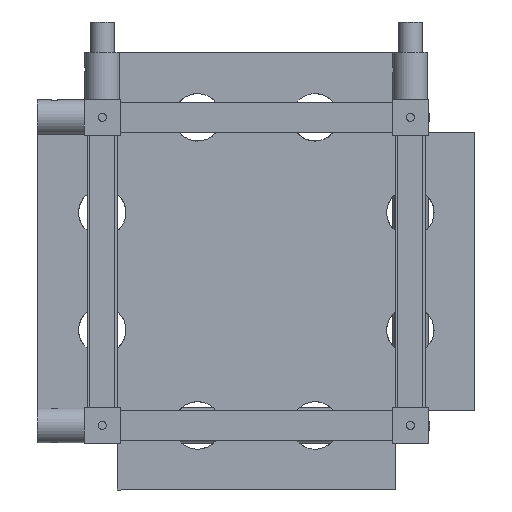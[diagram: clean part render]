
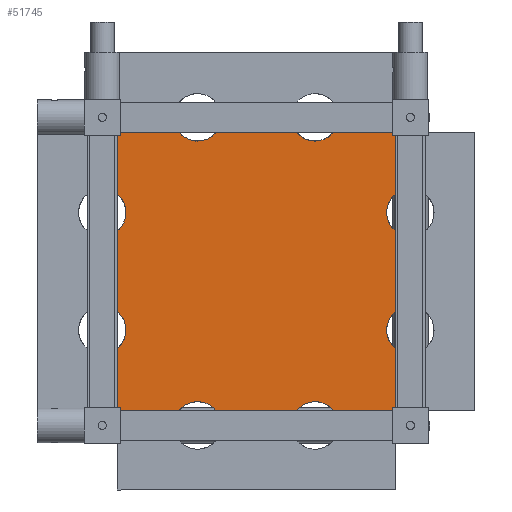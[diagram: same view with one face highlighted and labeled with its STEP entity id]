
A CAD part, front view. The second image highlights one B-rep face of the part: STEP entity #51745.
In plain terms, the highlighted planar face has unit normal (0, -1, 0).
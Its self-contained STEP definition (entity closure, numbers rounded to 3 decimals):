
#418=LINE('',#72221,#6344);
#419=LINE('',#72225,#6345);
#420=LINE('',#72227,#6346);
#421=LINE('',#72231,#6347);
#422=LINE('',#72235,#6348);
#423=LINE('',#72237,#6349);
#424=LINE('',#72241,#6350);
#425=LINE('',#72245,#6351);
#426=LINE('',#72247,#6352);
#427=LINE('',#72251,#6353);
#428=LINE('',#72255,#6354);
#429=LINE('',#72257,#6355);
#6344=VECTOR('',#58435,10.);
#6345=VECTOR('',#58438,10.);
#6346=VECTOR('',#58439,10.);
#6347=VECTOR('',#58442,10.);
#6348=VECTOR('',#58445,10.);
#6349=VECTOR('',#58446,10.);
#6350=VECTOR('',#58449,10.);
#6351=VECTOR('',#58452,10.);
#6352=VECTOR('',#58453,10.);
#6353=VECTOR('',#58456,10.);
#6354=VECTOR('',#58459,10.);
#6355=VECTOR('',#58460,10.);
#12194=CIRCLE('',#54553,40.);
#12195=CIRCLE('',#54554,40.);
#12196=CIRCLE('',#54555,40.);
#12197=CIRCLE('',#54556,40.);
#12198=CIRCLE('',#54557,40.);
#12199=CIRCLE('',#54558,40.);
#12200=CIRCLE('',#54559,40.);
#12201=CIRCLE('',#54560,40.);
#13100=PLANE('',#54552);
#15564=FACE_OUTER_BOUND('',#18318,.T.);
#18318=EDGE_LOOP('',(#34185,#34186,#34187,#34188,#34189,#34190,#34191,#34192,
#34193,#34194,#34195,#34196,#34197,#34198,#34199,#34200,#34201,#34202,#34203,
#34204));
#21947=VERTEX_POINT('',#72219);
#21948=VERTEX_POINT('',#72220);
#21949=VERTEX_POINT('',#72222);
#21950=VERTEX_POINT('',#72224);
#21951=VERTEX_POINT('',#72226);
#21952=VERTEX_POINT('',#72228);
#21953=VERTEX_POINT('',#72230);
#21954=VERTEX_POINT('',#72232);
#21955=VERTEX_POINT('',#72234);
#21956=VERTEX_POINT('',#72236);
#21957=VERTEX_POINT('',#72238);
#21958=VERTEX_POINT('',#72240);
#21959=VERTEX_POINT('',#72242);
#21960=VERTEX_POINT('',#72244);
#21961=VERTEX_POINT('',#72246);
#21962=VERTEX_POINT('',#72248);
#21963=VERTEX_POINT('',#72250);
#21964=VERTEX_POINT('',#72252);
#21965=VERTEX_POINT('',#72254);
#21966=VERTEX_POINT('',#72256);
#26776=EDGE_CURVE('',#21947,#21948,#418,.T.);
#26777=EDGE_CURVE('',#21948,#21949,#12194,.T.);
#26778=EDGE_CURVE('',#21949,#21950,#419,.T.);
#26779=EDGE_CURVE('',#21950,#21951,#420,.T.);
#26780=EDGE_CURVE('',#21951,#21952,#12195,.T.);
#26781=EDGE_CURVE('',#21952,#21953,#421,.T.);
#26782=EDGE_CURVE('',#21953,#21954,#12196,.T.);
#26783=EDGE_CURVE('',#21954,#21955,#422,.T.);
#26784=EDGE_CURVE('',#21956,#21955,#423,.T.);
#26785=EDGE_CURVE('',#21956,#21957,#12197,.T.);
#26786=EDGE_CURVE('',#21958,#21957,#424,.T.);
#26787=EDGE_CURVE('',#21958,#21959,#12198,.T.);
#26788=EDGE_CURVE('',#21960,#21959,#425,.T.);
#26789=EDGE_CURVE('',#21960,#21961,#426,.T.);
#26790=EDGE_CURVE('',#21961,#21962,#12199,.T.);
#26791=EDGE_CURVE('',#21962,#21963,#427,.T.);
#26792=EDGE_CURVE('',#21963,#21964,#12200,.T.);
#26793=EDGE_CURVE('',#21964,#21965,#428,.T.);
#26794=EDGE_CURVE('',#21965,#21966,#429,.T.);
#26795=EDGE_CURVE('',#21966,#21947,#12201,.T.);
#34185=ORIENTED_EDGE('',*,*,#26776,.T.);
#34186=ORIENTED_EDGE('',*,*,#26777,.T.);
#34187=ORIENTED_EDGE('',*,*,#26778,.T.);
#34188=ORIENTED_EDGE('',*,*,#26779,.T.);
#34189=ORIENTED_EDGE('',*,*,#26780,.T.);
#34190=ORIENTED_EDGE('',*,*,#26781,.T.);
#34191=ORIENTED_EDGE('',*,*,#26782,.T.);
#34192=ORIENTED_EDGE('',*,*,#26783,.T.);
#34193=ORIENTED_EDGE('',*,*,#26784,.F.);
#34194=ORIENTED_EDGE('',*,*,#26785,.T.);
#34195=ORIENTED_EDGE('',*,*,#26786,.F.);
#34196=ORIENTED_EDGE('',*,*,#26787,.T.);
#34197=ORIENTED_EDGE('',*,*,#26788,.F.);
#34198=ORIENTED_EDGE('',*,*,#26789,.T.);
#34199=ORIENTED_EDGE('',*,*,#26790,.T.);
#34200=ORIENTED_EDGE('',*,*,#26791,.T.);
#34201=ORIENTED_EDGE('',*,*,#26792,.T.);
#34202=ORIENTED_EDGE('',*,*,#26793,.T.);
#34203=ORIENTED_EDGE('',*,*,#26794,.T.);
#34204=ORIENTED_EDGE('',*,*,#26795,.T.);
#51745=ADVANCED_FACE('',(#15564),#13100,.F.);
#54552=AXIS2_PLACEMENT_3D('',#72218,#58433,#58434);
#54553=AXIS2_PLACEMENT_3D('',#72223,#58436,#58437);
#54554=AXIS2_PLACEMENT_3D('',#72229,#58440,#58441);
#54555=AXIS2_PLACEMENT_3D('',#72233,#58443,#58444);
#54556=AXIS2_PLACEMENT_3D('',#72239,#58447,#58448);
#54557=AXIS2_PLACEMENT_3D('',#72243,#58450,#58451);
#54558=AXIS2_PLACEMENT_3D('',#72249,#58454,#58455);
#54559=AXIS2_PLACEMENT_3D('',#72253,#58457,#58458);
#54560=AXIS2_PLACEMENT_3D('',#72258,#58461,#58462);
#58433=DIRECTION('center_axis',(0.,1.,0.));
#58434=DIRECTION('ref_axis',(0.,0.,
1.));
#58435=DIRECTION('',(1.,0.,0.));
#58436=DIRECTION('center_axis',(0.,1.,0.));
#58437=DIRECTION('ref_axis',(-1.,0.,0.));
#58438=DIRECTION('',(1.,0.,0.));
#58439=DIRECTION('',(0.,0.,1.));
#58440=DIRECTION('center_axis',(0.,1.,0.));
#58441=DIRECTION('ref_axis',(-1.,0.,0.));
#58442=DIRECTION('',(0.,0.,1.));
#58443=DIRECTION('center_axis',(0.,1.,0.));
#58444=DIRECTION('ref_axis',(-1.,0.,0.));
#58445=DIRECTION('',(0.,0.,1.));
#58446=DIRECTION('',(1.,0.,0.));
#58447=DIRECTION('center_axis',(0.,1.,0.));
#58448=DIRECTION('ref_axis',(-1.,0.,0.));
#58449=DIRECTION('',(1.,0.,0.));
#58450=DIRECTION('center_axis',(0.,1.,0.));
#58451=DIRECTION('ref_axis',(-1.,0.,0.));
#58452=DIRECTION('',(1.,0.,0.));
#58453=DIRECTION('',(0.,0.,-1.));
#58454=DIRECTION('center_axis',(0.,1.,0.));
#58455=DIRECTION('ref_axis',(-1.,0.,0.));
#58456=DIRECTION('',(0.,0.,-1.));
#58457=DIRECTION('center_axis',(0.,1.,0.));
#58458=DIRECTION('ref_axis',(-1.,0.,0.));
#58459=DIRECTION('',(0.,0.,-1.));
#58460=DIRECTION('',(1.,0.,0.));
#58461=DIRECTION('center_axis',(0.,1.,0.));
#58462=DIRECTION('ref_axis',(-1.,0.,0.));
#72218=CARTESIAN_POINT('Origin',(370.,74.,-260.));
#72219=CARTESIAN_POINT('',(302.18,74.,-495.));
#72220=CARTESIAN_POINT('',(437.82,74.,-495.));
#72221=CARTESIAN_POINT('',(127.,74.,-495.));
#72222=CARTESIAN_POINT('',(500.27,74.,-495.));
#72223=CARTESIAN_POINT('Origin',(469.045,74.,-520.));
#72224=CARTESIAN_POINT('',(605.,74.,-495.));
#72225=CARTESIAN_POINT('',(127.,74.,-495.));
#72226=CARTESIAN_POINT('',(605.,74.,-390.27));
#72227=CARTESIAN_POINT('',(605.,74.,-503.));
#72228=CARTESIAN_POINT('',(605.,74.,-327.82));
#72229=CARTESIAN_POINT('Origin',(630.,74.,-359.045));
#72230=CARTESIAN_POINT('',(605.,74.,-192.18));
#72231=CARTESIAN_POINT('',(605.,74.,-503.));
#72232=CARTESIAN_POINT('',(605.,74.,-129.73));
#72233=CARTESIAN_POINT('Origin',(630.,74.,-160.955));
#72234=CARTESIAN_POINT('',(605.,74.,-25.));
#72235=CARTESIAN_POINT('',(605.,74.,-503.));
#72236=CARTESIAN_POINT('',(500.27,74.,-25.));
#72237=CARTESIAN_POINT('',(127.,74.,-25.));
#72238=CARTESIAN_POINT('',(437.82,74.,-25.));
#72239=CARTESIAN_POINT('Origin',(469.045,74.,0.));
#72240=CARTESIAN_POINT('',(302.18,74.,-25.));
#72241=CARTESIAN_POINT('',(127.,74.,-25.));
#72242=CARTESIAN_POINT('',(239.73,74.,-25.));
#72243=CARTESIAN_POINT('Origin',(270.955,74.,0.));
#72244=CARTESIAN_POINT('',(135.,74.,-25.));
#72245=CARTESIAN_POINT('',(127.,74.,-25.));
#72246=CARTESIAN_POINT('',(135.,74.,-129.73));
#72247=CARTESIAN_POINT('',(135.,74.,-17.));
#72248=CARTESIAN_POINT('',(135.,74.,-192.18));
#72249=CARTESIAN_POINT('Origin',(110.,74.,-160.955));
#72250=CARTESIAN_POINT('',(135.,74.,-327.82));
#72251=CARTESIAN_POINT('',(135.,74.,-17.));
#72252=CARTESIAN_POINT('',(135.,74.,-390.27));
#72253=CARTESIAN_POINT('Origin',(110.,74.,-359.045));
#72254=CARTESIAN_POINT('',(135.,74.,-495.));
#72255=CARTESIAN_POINT('',(135.,74.,-17.));
#72256=CARTESIAN_POINT('',(239.73,74.,-495.));
#72257=CARTESIAN_POINT('',(127.,74.,-495.));
#72258=CARTESIAN_POINT('Origin',(270.955,74.,-520.));
